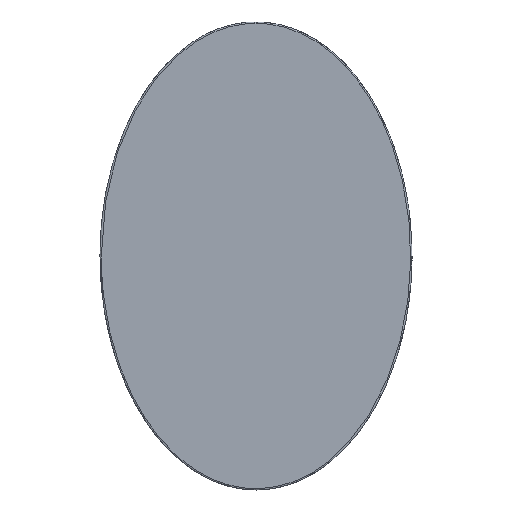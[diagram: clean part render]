
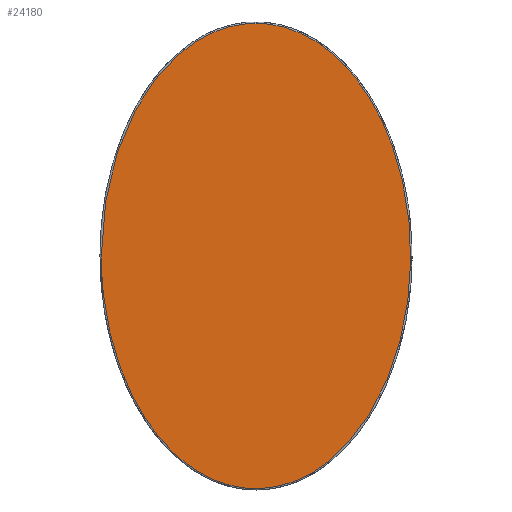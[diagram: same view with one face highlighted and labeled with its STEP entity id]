
A CAD part, front view. The second image highlights one B-rep face of the part: STEP entity #24180.
In plain terms, the highlighted planar face has unit normal (0, -1, 0).
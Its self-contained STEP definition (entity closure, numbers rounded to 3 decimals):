
#3418=B_SPLINE_CURVE_WITH_KNOTS('',3,(#32265,#32266,#32267,#32268,#32269,
#32270,#32271,#32272,#32273,#32274,#32275,#32276,#32277,#32278,#32279,#32280,
#32281,#32282,#32283,#32284,#32285,#32286,#32287,#32288,#32289,#32290,#32291,
#32292,#32293,#32294,#32295,#32296,#32297,#32298,#32299,#32300,#32301,#32302,
#32303,#32304,#32305,#32306,#32307,#32308,#32309,#32310,#32311,#32312,#32313,
#32314),.UNSPECIFIED.,.T.,.F.,(4,1,1,1,1,1,1,1,1,1,1,1,1,1,1,1,1,1,1,1,
1,1,1,1,1,1,1,1,1,1,1,1,1,1,1,1,1,1,1,1,1,1,1,1,1,1,1,4),(-7.854,
-7.63,-7.405,-7.181,-7.069,
-6.956,-6.857,-6.757,-6.657,
-6.557,-6.458,-6.358,-6.283,
-6.208,-6.134,-6.059,-5.984,
-5.909,-5.76,-5.61,-5.46,
-5.311,-5.161,-4.862,-4.563,
-4.413,-4.264,-4.114,-3.964,
-3.815,-3.665,-3.565,-3.466,
-3.366,-3.266,-3.167,-3.067,
-2.992,-2.917,-2.842,-2.768,
-2.618,-2.468,-2.356,-2.244,
-2.02,-1.795,-1.571),.UNSPECIFIED.);
#5321=PLANE('',#25766);
#6040=FACE_OUTER_BOUND('',#7241,.T.);
#7241=EDGE_LOOP('',(#17974));
#12814=VERTEX_POINT('',#32263);
#14868=EDGE_CURVE('',#12814,#12814,#3418,.T.);
#17974=ORIENTED_EDGE('',*,*,#14868,.F.);
#24180=ADVANCED_FACE('',(#6040),#5321,.T.);
#25766=AXIS2_PLACEMENT_3D('',#32315,#26958,#26959);
#26958=DIRECTION('center_axis',(0.,-1.,0.));
#26959=DIRECTION('ref_axis',(0.,0.,-1.));
#32263=CARTESIAN_POINT('',(-694.,0.,0.));
#32265=CARTESIAN_POINT('Ctrl Pts',(-694.,0.,0.));
#32266=CARTESIAN_POINT('Ctrl Pts',(-694.,0.,65.659));
#32267=CARTESIAN_POINT('Ctrl Pts',(-685.785,0.,
196.966));
#32268=CARTESIAN_POINT('Ctrl Pts',(-648.302,0.,
390.729));
#32269=CARTESIAN_POINT('Ctrl Pts',(-594.68,0.,
546.402));
#32270=CARTESIAN_POINT('Ctrl Pts',(-536.895,0.,
664.456));
#32271=CARTESIAN_POINT('Ctrl Pts',(-487.512,0.,
745.536));
#32272=CARTESIAN_POINT('Ctrl Pts',(-432.631,0.,
818.5));
#32273=CARTESIAN_POINT('Ctrl Pts',(-372.927,0.,
882.706));
#32274=CARTESIAN_POINT('Ctrl Pts',(-305.984,0.,
939.411));
#32275=CARTESIAN_POINT('Ctrl Pts',(-231.902,0.,
986.496));
#32276=CARTESIAN_POINT('Ctrl Pts',(-151.354,0.,
1021.534));
#32277=CARTESIAN_POINT('Ctrl Pts',(-72.971,0.,
1040.347));
#32278=CARTESIAN_POINT('Ctrl Pts',(-0.016,0.,
1045.566));
#32279=CARTESIAN_POINT('Ctrl Pts',(65.644,0.,
1040.87));
#32280=CARTESIAN_POINT('Ctrl Pts',(129.999,0.,
1027.021));
#32281=CARTESIAN_POINT('Ctrl Pts',(191.905,0.,
1004.721));
#32282=CARTESIAN_POINT('Ctrl Pts',(250.544,0.,
974.944));
#32283=CARTESIAN_POINT('Ctrl Pts',(323.743,0.,
926.649));
#32284=CARTESIAN_POINT('Ctrl Pts',(405.152,0.,
852.808));
#32285=CARTESIAN_POINT('Ctrl Pts',(486.687,0.,
749.424));
#32286=CARTESIAN_POINT('Ctrl Pts',(553.194,0.,
635.885));
#32287=CARTESIAN_POINT('Ctrl Pts',(605.893,0.,
515.391));
#32288=CARTESIAN_POINT('Ctrl Pts',(659.1,0.,
348.371));
#32289=CARTESIAN_POINT('Ctrl Pts',(695.836,0.,
131.744));
#32290=CARTESIAN_POINT('Ctrl Pts',(695.849,0.,
-87.818));
#32291=CARTESIAN_POINT('Ctrl Pts',(673.787,0.,
-261.679));
#32292=CARTESIAN_POINT('Ctrl Pts',(645.81,0.,
-390.127));
#32293=CARTESIAN_POINT('Ctrl Pts',(605.896,0.,
-515.365));
#32294=CARTESIAN_POINT('Ctrl Pts',(553.215,0.,
-635.846));
#32295=CARTESIAN_POINT('Ctrl Pts',(486.712,0.,
-749.386));
#32296=CARTESIAN_POINT('Ctrl Pts',(414.226,0.,
-841.308));
#32297=CARTESIAN_POINT('Ctrl Pts',(340.364,0.,
-912.119));
#32298=CARTESIAN_POINT('Ctrl Pts',(269.828,0.,
-964.291));
#32299=CARTESIAN_POINT('Ctrl Pts',(192.36,0.,
-1005.683));
#32300=CARTESIAN_POINT('Ctrl Pts',(109.083,0.,
-1033.749));
#32301=CARTESIAN_POINT('Ctrl Pts',(22.04,0.,
-1046.266));
#32302=CARTESIAN_POINT('Ctrl Pts',(-58.504,0.,
-1042.415));
#32303=CARTESIAN_POINT('Ctrl Pts',(-129.988,0.,
-1027.02));
#32304=CARTESIAN_POINT('Ctrl Pts',(-191.897,0.,
-1004.728));
#32305=CARTESIAN_POINT('Ctrl Pts',(-250.548,0.,
-974.942));
#32306=CARTESIAN_POINT('Ctrl Pts',(-323.737,0.,
-926.653));
#32307=CARTESIAN_POINT('Ctrl Pts',(-405.147,0.,
-852.818));
#32308=CARTESIAN_POINT('Ctrl Pts',(-479.891,0.,
-758.038));
#32309=CARTESIAN_POINT('Ctrl Pts',(-536.885,0.,
-664.476));
#32310=CARTESIAN_POINT('Ctrl Pts',(-594.669,0.,
-546.425));
#32311=CARTESIAN_POINT('Ctrl Pts',(-648.291,0.,
-390.774));
#32312=CARTESIAN_POINT('Ctrl Pts',(-685.786,0.,
-196.976));
#32313=CARTESIAN_POINT('Ctrl Pts',(-694.,0.,-65.659));
#32314=CARTESIAN_POINT('Ctrl Pts',(-694.,0.,0.));
#32315=CARTESIAN_POINT('Origin',(0.,0.,0.));
